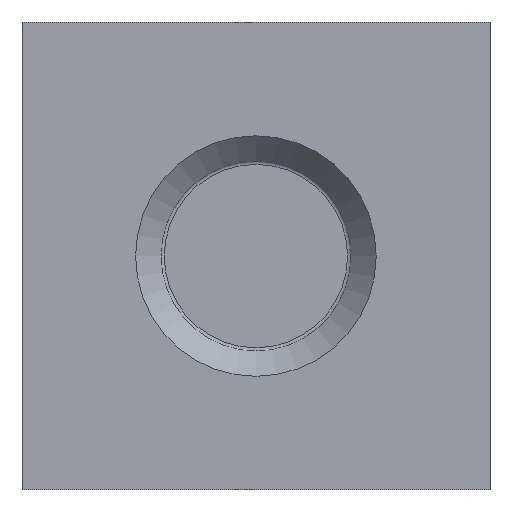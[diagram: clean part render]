
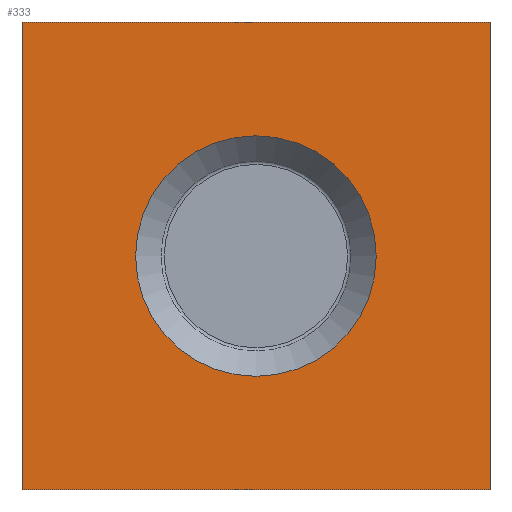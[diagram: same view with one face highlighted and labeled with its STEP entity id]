
A CAD part, top view. The second image highlights one B-rep face of the part: STEP entity #333.
In plain terms, the highlighted planar face has unit normal (0, 0, 1).
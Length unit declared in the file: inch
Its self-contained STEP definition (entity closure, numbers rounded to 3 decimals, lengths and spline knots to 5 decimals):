
#24=CARTESIAN_POINT('',(-7.31472,8.46533,16.79893));
#25=VERTEX_POINT('',#24);
#42=CARTESIAN_POINT('',(-6.31486,8.46533,16.79893));
#43=VERTEX_POINT('',#42);
#50=CARTESIAN_POINT('',(38.41507,8.46533,16.79893));
#51=DIRECTION('',(1.,0.,0.));
#52=VECTOR('',#51,1.);
#53=LINE('',#50,#52);
#54=EDGE_CURVE('',#25,#43,#53,.T.);
#73=CARTESIAN_POINT('',(-6.31486,9.46493,16.79893));
#74=VERTEX_POINT('',#73);
#81=CARTESIAN_POINT('',(-6.31486,59.5621,16.79893));
#82=DIRECTION('',(0.,1.,0.));
#83=VECTOR('',#82,1.);
#84=LINE('',#81,#83);
#85=EDGE_CURVE('',#43,#74,#84,.T.);
#132=CARTESIAN_POINT('',(-7.31472,9.46493,16.79893));
#133=VERTEX_POINT('',#132);
#140=CARTESIAN_POINT('',(41.62956,9.46493,16.79893));
#141=DIRECTION('',(1.,0.,0.));
#142=VECTOR('',#141,1.);
#143=LINE('',#140,#142);
#144=EDGE_CURVE('',#133,#74,#143,.T.);
#155=CARTESIAN_POINT('',(-7.31472,90.10445,16.79893));
#156=DIRECTION('',(0.,1.,0.));
#157=VECTOR('',#156,1.);
#158=LINE('',#155,#157);
#159=EDGE_CURVE('',#25,#133,#158,.T.);
#294=CARTESIAN_POINT('',(-6.81497,8.70797,16.79893));
#295=VERTEX_POINT('',#294);
#302=CARTESIAN_POINT('',(-6.81497,8.96497,16.79893));
#303=DIRECTION('',(0.,0.,-1.));
#304=DIRECTION('',(0.,-1.,0.));
#305=AXIS2_PLACEMENT_3D('',#302,#303,#304);
#306=CIRCLE('',#305,0.257);
#307=EDGE_CURVE('',#295,#295,#306,.T.);
#319=ORIENTED_EDGE('',*,*,#54,.T.);
#320=ORIENTED_EDGE('',*,*,#85,.T.);
#321=ORIENTED_EDGE('',*,*,#144,.F.);
#322=ORIENTED_EDGE('',*,*,#159,.F.);
#323=EDGE_LOOP('',(#319,#320,#321,#322));
#324=FACE_OUTER_BOUND('',#323,.T.);
#325=ORIENTED_EDGE('',*,*,#307,.T.);
#326=EDGE_LOOP('',(#325));
#327=FACE_BOUND('',#326,.T.);
#328=CARTESIAN_POINT('',(-10.10497,6.77097,16.79893));
#329=DIRECTION('',(0.,0.,-1.));
#330=DIRECTION('',(0.,1.,0.));
#331=AXIS2_PLACEMENT_3D('',#328,#329,#330);
#332=PLANE('',#331);
#333=ADVANCED_FACE('',(#324,#327),#332,.F.);
